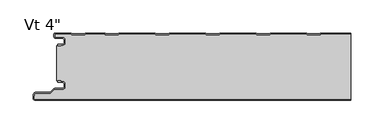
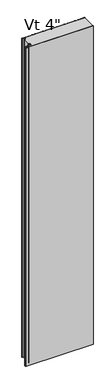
"""IFC4 building model written with IfcOpenShell, lengths in millimetres: plate geometry."""

from ifc_helpers import new_model, si_unit, point, frame, frame_2d, origin, origin_with_axes, place, context, project, spatial, polyline, circle_curve, trimmed, segment, composite_curve, outline, extrude, source, transform, mapped, element, save
from ifc_brep_helpers import plane_surface, cylinder_surface, revolved_surface, advanced_brep


def plate_912df086(model_context):
    return source(origin(), model_context, "Body", "SolidModel", [
        advanced_brep(
        [(-219.9686911, -17.0015243, 2400.0), (-220.9686883, -18.0015275, 2400.0), (-219.9686911, -19.0015188, 2400.0), (-215.9684874, -19.0015188, 2400.0), (-215.9684874, -18.0015243, 2400.0), (-213.2762776, -18.0015243, 2400.0), (-209.9762819, -14.7015286, 2400.0), (-209.9762819, -10.3015374, 2400.0), (-213.2762774, -7.0015419, 2400.0), (-223.6962563, -7.0015419, 2400.0), (-225.4662505, -5.2315477, 2400.0), (-225.4662505, -1.0, 2400.0), (-200.9659739, -1.0, 2400.0), (-199.5803313, -2.2002391, 2400.0), (-180.205165, -2.2002391, 2400.0), (-178.819532, -1.0000084, 2400.0), (-150.1661166, -1.0000084, 2400.0), (-148.7804837, -2.2002391, 2400.0), (-129.4053174, -2.2002391, 2400.0), (-128.0196844, -1.0000084, 2400.0), (-73.966269, -1.0000084, 2400.0), (-72.5806361, -2.2002391, 2400.0), (-53.2054698, -2.2002391, 2400.0), (-51.8198368, -1.0000084, 2400.0), (2.2335786, -1.0000084, 2400.0), (3.6192115, -2.2002391, 2400.0), (22.9943778, -2.2002391, 2400.0), (24.3800108, -1.0000084, 2400.0), (78.4334262, -1.0000084, 2400.0), (79.8190591, -2.2002391, 2400.0), (99.1942254, -2.2002391, 2400.0), (100.5798584, -1.0000084, 2400.0), (154.6332738, -1.0000084, 2400.0), (156.0189067, -2.2002391, 2400.0), (175.394073, -2.2002391, 2400.0), (176.779706, -1.0000084, 2400.0), (221.9999998, -1.0000084, 2400.0), (221.9999998, -8.4e-06, 2400.0), (176.9288571, -8.4e-06, 2400.0), (176.0122402, -0.3417969, 2400.0), (175.0211926, -1.2002391, 2400.0), (156.3917872, -1.2002391, 2400.0), (155.4007395, -0.3417969, 2400.0), (154.4841226, -8.4e-06, 2400.0), (100.7290095, -8.4e-06, 2400.0), (99.8123926, -0.3417969, 2400.0), (98.821345, -1.2002391, 2400.0), (80.1919396, -1.2002391, 2400.0), (79.2008919, -0.3417969, 2400.0), (78.284275, -8.4e-06, 2400.0), (24.5291619, -8.4e-06, 2400.0), (23.612545, -0.3417969, 2400.0), (22.6214974, -1.2002391, 2400.0), (3.992092, -1.2002391, 2400.0), (3.0010443, -0.3417969, 2400.0), (2.0844274, -8.4e-06, 2400.0), (-51.6706857, -8.4e-06, 2400.0), (-52.5873026, -0.3417969, 2400.0), (-53.5783502, -1.2002391, 2400.0), (-72.2077556, -1.2002391, 2400.0), (-73.1988033, -0.3417969, 2400.0), (-74.1154202, -8.4e-06, 2400.0), (-127.8705333, -8.4e-06, 2400.0), (-128.7871502, -0.3417969, 2400.0), (-129.7781978, -1.2002391, 2400.0), (-148.4076032, -1.2002391, 2400.0), (-149.3986509, -0.3417969, 2400.0), (-150.3152678, -8.4e-06, 2400.0), (-178.6703809, -8.4e-06, 2400.0), (-179.5869978, -0.3417969, 2400.0), (-180.5780454, -1.2002391, 2400.0), (-199.2074508, -1.2002391, 2400.0), (-200.1984985, -0.3417969, 2400.0), (-201.1152068, -8.4e-06, 2400.0), (-225.0662544, 0.0, 2400.0), (-226.4662505, -1.3999962, 2400.0), (-226.4662505, -5.2315477, 2400.0), (-223.6962563, -8.0015419, 2400.0), (-213.2762774, -8.0015419, 2400.0), (-210.9762819, -10.3015374, 2400.0), (-210.9762819, -14.7015286, 2400.0), (-213.2762776, -17.0015243, 2400.0), (-219.9686911, -17.0015243, 0.0), (-213.2762776, -17.0015243, 0.0), (-210.9762819, -14.7015286, 0.0), (-210.9762819, -10.3015374, 0.0), (-213.2762774, -8.0015419, 0.0), (-223.6962563, -8.0015419, 0.0), (-226.4662505, -5.2315477, 0.0), (-226.4662505, -1.3999962, 0.0), (-225.0662544, 0.0, 0.0), (-201.1151154, 0.0, 0.0), (-200.1984985, -0.3417969, 0.0), (-199.2074508, -1.2002391, 0.0), (-180.5780454, -1.2002391, 0.0), (-179.5869978, -0.3417969, 0.0), (-178.6703809, -8.4e-06, 0.0), (-150.3152678, -8.4e-06, 0.0), (-149.3986509, -0.3417969, 0.0), (-148.4076032, -1.2002391, 0.0), (-129.7781978, -1.2002391, 0.0), (-128.7871502, -0.3417969, 0.0), (-127.8705333, -8.4e-06, 0.0), (-74.1154202, -8.4e-06, 0.0), (-73.1988033, -0.3417969, 0.0), (-72.2077556, -1.2002391, 0.0), (-53.5783502, -1.2002391, 0.0), (-52.5873026, -0.3417969, 0.0), (-51.6706857, -8.4e-06, 0.0), (2.0844274, -8.4e-06, 0.0), (3.0010443, -0.3417969, 0.0), (3.992092, -1.2002391, 0.0), (22.6214974, -1.2002391, 0.0), (23.612545, -0.3417969, 0.0), (24.5291619, -8.4e-06, 0.0), (78.284275, -8.4e-06, 0.0), (79.2008919, -0.3417969, 0.0), (80.1919396, -1.2002391, 0.0), (98.821345, -1.2002391, 0.0), (99.8123926, -0.3417969, 0.0), (100.7290095, -8.4e-06, 0.0), (154.4841226, -8.4e-06, 0.0), (155.4007395, -0.3417969, 0.0), (156.3917872, -1.2002391, 0.0), (175.0211926, -1.2002391, 0.0), (176.0122402, -0.3417969, 0.0), (176.9288571, -8.4e-06, 0.0), (221.9999998, -8.4e-06, 0.0), (221.9999998, -1.0000084, 0.0), (176.779706, -1.0000084, 0.0), (175.394073, -2.2002391, 0.0), (156.0189067, -2.2002391, 0.0), (154.6332738, -1.0000084, 0.0), (100.5798584, -1.0000084, 0.0), (99.1942254, -2.2002391, 0.0), (79.8190591, -2.2002391, 0.0), (78.4334262, -1.0000084, 0.0), (24.3800108, -1.0000084, 0.0), (22.9943778, -2.2002391, 0.0), (3.6192115, -2.2002391, 0.0), (2.2335786, -1.0000084, 0.0), (-51.8198368, -1.0000084, 0.0), (-53.2054698, -2.2002391, 0.0), (-72.5806361, -2.2002391, 0.0), (-73.966269, -1.0000084, 0.0), (-128.0196844, -1.0000084, 0.0), (-129.4053174, -2.2002391, 0.0), (-148.7804837, -2.2002391, 0.0), (-150.1661166, -1.0000084, 0.0), (-178.819532, -1.0000084, 0.0), (-180.205165, -2.2002391, 0.0), (-199.5803313, -2.2002391, 0.0), (-200.9659739, -1.0, 0.0), (-225.4662505, -1.0, 0.0), (-225.4662505, -5.2315477, 0.0), (-223.6962563, -7.0015419, 0.0), (-213.2762774, -7.0015419, 0.0), (-209.9762819, -10.3015374, 0.0), (-209.9762819, -14.7015286, 0.0), (-213.2762776, -18.0015243, 0.0), (-215.9684874, -18.0015243, 0.0), (-215.9684874, -19.0015188, 0.0), (-219.9686911, -19.0015188, 0.0), (-220.9686883, -18.0015275, 0.0)],
        [
            (0, 1, circle_curve(frame((-219.9686911, -18.0015215, 2400.0), z_axis=(0.0, 0.0, 1.0), x_axis=(1.0, 0.0, 0.0)), 0.9999973)),
            (1, 2, circle_curve(frame((-219.9686911, -18.0015216, 2400.0), z_axis=(0.0, 0.0, 1.0), x_axis=(1.0, 0.0, 0.0)), 0.9999972)),
            (2, 3),
            (3, 4),
            (4, 5),
            (5, 6, circle_curve(frame((-213.2762776, -14.7015286, 2400.0), z_axis=(0.0, 0.0, 1.0), x_axis=(1.0, 0.0, 0.0)), 3.2999957)),
            (6, 7),
            (7, 8, circle_curve(frame((-213.2762774, -10.3015374, 2400.0), z_axis=(0.0, 0.0, 1.0), x_axis=(1.0, 0.0, 0.0)), 3.2999955)),
            (8, 9),
            (9, 10, circle_curve(frame((-223.6962563, -5.2315477, 2400.0), z_axis=(0.0, 0.0, -1.0), x_axis=(1.0, 0.0, 0.0)), 1.7699942)),
            (10, 11),
            (11, 12),
            (12, 13),
            (13, 14),
            (14, 15),
            (15, 16),
            (16, 17),
            (17, 18),
            (18, 19),
            (19, 20),
            (20, 21),
            (21, 22),
            (22, 23),
            (23, 24),
            (24, 25),
            (25, 26),
            (26, 27),
            (27, 28),
            (28, 29),
            (29, 30),
            (30, 31),
            (31, 32),
            (32, 33),
            (33, 34),
            (34, 35),
            (35, 36),
            (36, 37),
            (37, 38),
            (38, 39, circle_curve(frame((176.9288571, -1.4000056, 2400.0), z_axis=(0.0, 0.0, 1.0), x_axis=(1.0, 0.0, 0.0)), 1.3999972)),
            (39, 40),
            (40, 41),
            (41, 42),
            (42, 43, circle_curve(frame((154.4841226, -1.4000056, 2400.0), z_axis=(0.0, 0.0, 1.0), x_axis=(1.0, 0.0, 0.0)), 1.3999972)),
            (43, 44),
            (44, 45, circle_curve(frame((100.7290095, -1.4000056, 2400.0), z_axis=(0.0, 0.0, 1.0), x_axis=(1.0, 0.0, 0.0)), 1.3999972)),
            (45, 46),
            (46, 47),
            (47, 48),
            (48, 49, circle_curve(frame((78.284275, -1.4000056, 2400.0), z_axis=(0.0, 0.0, 1.0), x_axis=(1.0, 0.0, 0.0)), 1.3999972)),
            (49, 50),
            (50, 51, circle_curve(frame((24.5291619, -1.4000056, 2400.0), z_axis=(0.0, 0.0, 1.0), x_axis=(1.0, 0.0, 0.0)), 1.3999972)),
            (51, 52),
            (52, 53),
            (53, 54),
            (54, 55, circle_curve(frame((2.0844274, -1.4000056, 2400.0), z_axis=(0.0, 0.0, 1.0), x_axis=(1.0, 0.0, 0.0)), 1.3999972)),
            (55, 56),
            (56, 57, circle_curve(frame((-51.6706857, -1.4000056, 2400.0), z_axis=(0.0, 0.0, 1.0), x_axis=(1.0, 0.0, 0.0)), 1.3999972)),
            (57, 58),
            (58, 59),
            (59, 60),
            (60, 61, circle_curve(frame((-74.1154202, -1.4000056, 2400.0), z_axis=(0.0, 0.0, 1.0), x_axis=(1.0, 0.0, 0.0)), 1.3999972)),
            (61, 62),
            (62, 63, circle_curve(frame((-127.8705333, -1.4000056, 2400.0), z_axis=(0.0, 0.0, 1.0), x_axis=(1.0, 0.0, 0.0)), 1.3999972)),
            (63, 64),
            (64, 65),
            (65, 66),
            (66, 67, circle_curve(frame((-150.3152678, -1.4000056, 2400.0), z_axis=(0.0, 0.0, 1.0), x_axis=(1.0, 0.0, 0.0)), 1.3999972)),
            (67, 68),
            (68, 69, circle_curve(frame((-178.6703809, -1.4000056, 2400.0), z_axis=(0.0, 0.0, 1.0), x_axis=(1.0, 0.0, 0.0)), 1.3999972)),
            (69, 70),
            (70, 71),
            (71, 72),
            (72, 73, circle_curve(frame((-201.1151154, -1.4000056, 2400.0), z_axis=(0.0, 0.0, 1.0), x_axis=(1.0, 0.0, 0.0)), 1.3999972)),
            (73, 74),
            (74, 75, circle_curve(frame((-225.0662544, -1.3999962, 2400.0), z_axis=(0.0, 0.0, 1.0), x_axis=(1.0, 0.0, 0.0)), 1.3999962)),
            (75, 76),
            (76, 77, circle_curve(frame((-223.6962563, -5.2315477, 2400.0), z_axis=(0.0, 0.0, 1.0), x_axis=(1.0, 0.0, 0.0)), 2.7699942)),
            (77, 78),
            (78, 79, circle_curve(frame((-213.2762774, -10.3015374, 2400.0), z_axis=(0.0, 0.0, -1.0), x_axis=(1.0, 0.0, 0.0)), 2.2999955)),
            (79, 80),
            (80, 81, circle_curve(frame((-213.2762776, -14.7015286, 2400.0), z_axis=(0.0, 0.0, -1.0), x_axis=(1.0, 0.0, 0.0)), 2.2999957)),
            (81, 0),
            (82, 83),
            (83, 84, circle_curve(frame((-213.2762776, -14.7015286, 0.0), z_axis=(0.0, 0.0, 1.0), x_axis=(1.0, 0.0, 0.0)), 2.2999957)),
            (84, 85),
            (85, 86, circle_curve(frame((-213.2762774, -10.3015374, 0.0), z_axis=(0.0, 0.0, 1.0), x_axis=(1.0, 0.0, 0.0)), 2.2999955)),
            (86, 87),
            (87, 88, circle_curve(frame((-223.6962563, -5.2315477, 0.0), z_axis=(0.0, 0.0, -1.0), x_axis=(1.0, 0.0, 0.0)), 2.7699942)),
            (88, 89),
            (89, 90, circle_curve(frame((-225.0662544, -1.3999962, 0.0), z_axis=(0.0, 0.0, -1.0), x_axis=(1.0, 0.0, 0.0)), 1.3999962)),
            (90, 91),
            (91, 92, circle_curve(frame((-201.1151154, -1.4000056, 0.0), z_axis=(0.0, 0.0, -1.0), x_axis=(1.0, 0.0, 0.0)), 1.3999972)),
            (92, 93),
            (93, 94),
            (94, 95),
            (95, 96, circle_curve(frame((-178.6703809, -1.4000056, 0.0), z_axis=(0.0, 0.0, -1.0), x_axis=(1.0, 0.0, 0.0)), 1.3999972)),
            (96, 97),
            (97, 98, circle_curve(frame((-150.3152678, -1.4000056, 0.0), z_axis=(0.0, 0.0, -1.0), x_axis=(1.0, 0.0, 0.0)), 1.3999972)),
            (98, 99),
            (99, 100),
            (100, 101),
            (101, 102, circle_curve(frame((-127.8705333, -1.4000056, 0.0), z_axis=(0.0, 0.0, -1.0), x_axis=(1.0, 0.0, 0.0)), 1.3999972)),
            (102, 103),
            (103, 104, circle_curve(frame((-74.1154202, -1.4000056, 0.0), z_axis=(0.0, 0.0, -1.0), x_axis=(1.0, 0.0, 0.0)), 1.3999972)),
            (104, 105),
            (105, 106),
            (106, 107),
            (107, 108, circle_curve(frame((-51.6706857, -1.4000056, 0.0), z_axis=(0.0, 0.0, -1.0), x_axis=(1.0, 0.0, 0.0)), 1.3999972)),
            (108, 109),
            (109, 110, circle_curve(frame((2.0844274, -1.4000056, 0.0), z_axis=(0.0, 0.0, -1.0), x_axis=(1.0, 0.0, 0.0)), 1.3999972)),
            (110, 111),
            (111, 112),
            (112, 113),
            (113, 114, circle_curve(frame((24.5291619, -1.4000056, 0.0), z_axis=(0.0, 0.0, -1.0), x_axis=(1.0, 0.0, 0.0)), 1.3999972)),
            (114, 115),
            (115, 116, circle_curve(frame((78.284275, -1.4000056, 0.0), z_axis=(0.0, 0.0, -1.0), x_axis=(1.0, 0.0, 0.0)), 1.3999972)),
            (116, 117),
            (117, 118),
            (118, 119),
            (119, 120, circle_curve(frame((100.7290095, -1.4000056, 0.0), z_axis=(0.0, 0.0, -1.0), x_axis=(1.0, 0.0, 0.0)), 1.3999972)),
            (120, 121),
            (121, 122, circle_curve(frame((154.4841226, -1.4000056, 0.0), z_axis=(0.0, 0.0, -1.0), x_axis=(1.0, 0.0, 0.0)), 1.3999972)),
            (122, 123),
            (123, 124),
            (124, 125),
            (125, 126, circle_curve(frame((176.9288571, -1.4000056, 0.0), z_axis=(0.0, 0.0, -1.0), x_axis=(1.0, 0.0, 0.0)), 1.3999972)),
            (126, 127),
            (127, 128),
            (128, 129),
            (129, 130),
            (130, 131),
            (131, 132),
            (132, 133),
            (133, 134),
            (134, 135),
            (135, 136),
            (136, 137),
            (137, 138),
            (138, 139),
            (139, 140),
            (140, 141),
            (141, 142),
            (142, 143),
            (143, 144),
            (144, 145),
            (145, 146),
            (146, 147),
            (147, 148),
            (148, 149),
            (149, 150),
            (150, 151),
            (151, 152),
            (152, 153),
            (153, 154),
            (154, 155, circle_curve(frame((-223.6962563, -5.2315477, 0.0), z_axis=(0.0, 0.0, 1.0), x_axis=(1.0, 0.0, 0.0)), 1.7699942)),
            (155, 156),
            (156, 157, circle_curve(frame((-213.2762774, -10.3015374, 0.0), z_axis=(0.0, 0.0, -1.0), x_axis=(1.0, 0.0, 0.0)), 3.2999955)),
            (157, 158),
            (158, 159, circle_curve(frame((-213.2762776, -14.7015286, 0.0), z_axis=(0.0, 0.0, -1.0), x_axis=(1.0, 0.0, 0.0)), 3.2999957)),
            (159, 160),
            (160, 161),
            (161, 162),
            (162, 163, circle_curve(frame((-219.9686911, -18.0015216, 0.0), z_axis=(0.0, 0.0, -1.0), x_axis=(1.0, 0.0, 0.0)), 0.9999972)),
            (163, 82, circle_curve(frame((-219.9686911, -18.0015215, 0.0), z_axis=(0.0, 0.0, -1.0), x_axis=(1.0, 0.0, 0.0)), 0.9999973)),
            (36, 128),
            (127, 37),
            (81, 83),
            (82, 0),
            (80, 84),
            (79, 85),
            (78, 86),
            (77, 87),
            (76, 88),
            (75, 89),
            (74, 90),
            (73, 91),
            (72, 92),
            (71, 93),
            (70, 94),
            (69, 95),
            (68, 96),
            (67, 97),
            (66, 98),
            (65, 99),
            (64, 100),
            (63, 101),
            (62, 102),
            (61, 103),
            (60, 104),
            (59, 105),
            (58, 106),
            (57, 107),
            (56, 108),
            (55, 109),
            (54, 110),
            (53, 111),
            (52, 112),
            (51, 113),
            (50, 114),
            (49, 115),
            (48, 116),
            (47, 117),
            (46, 118),
            (45, 119),
            (44, 120),
            (43, 121),
            (42, 122),
            (41, 123),
            (40, 124),
            (39, 125),
            (38, 126),
            (35, 129),
            (34, 130),
            (33, 131),
            (32, 132),
            (31, 133),
            (30, 134),
            (29, 135),
            (28, 136),
            (27, 137),
            (26, 138),
            (25, 139),
            (24, 140),
            (23, 141),
            (22, 142),
            (21, 143),
            (20, 144),
            (19, 145),
            (18, 146),
            (17, 147),
            (16, 148),
            (15, 149),
            (14, 150),
            (13, 151),
            (12, 152),
            (11, 153),
            (10, 154),
            (9, 155),
            (8, 156),
            (7, 157),
            (6, 158),
            (5, 159),
            (4, 160),
            (3, 161),
            (2, 162),
            (1, 163),
        ],
        [
            plane_surface(frame((286.0000002, -8.4e-06, 2400.0), z_axis=(0.0, 0.0, 1.0), x_axis=(0.0, 1.0, 0.0))),
            plane_surface(frame((286.0000002, -8.4e-06, 0.0), z_axis=(0.0, 0.0, -1.0), x_axis=(0.0, 1.0, 0.0))),
            plane_surface(frame((221.9999998, -111.6000084, 2400.0), z_axis=(1.0, 0.0, 0.0), x_axis=(0.0, 0.0, -1.0))),
            plane_surface(frame((-219.9686911, -17.0015243, 2400.0), z_axis=(0.0, 1.0, 0.0), x_axis=(0.0, 0.0, -1.0))),
            revolved_surface(polyline([(-210.97628189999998, -14.7015286, 0.0), (-210.97628189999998, -14.7015286, 2400.0)]), (-213.2762776, -14.7015286, 2400.0), (0.0, 0.0, -1.0)),
            plane_surface(frame((-210.9762819, -14.7015286, 2400.0), z_axis=(-1.0, 0.0, 0.0), x_axis=(0.0, 0.0, -1.0))),
            revolved_surface(polyline([(-210.9762819, -10.3015374, 0.0), (-210.9762819, -10.3015374, 2400.0)]), (-213.2762774, -10.3015374, 2400.0), (0.0, 0.0, -1.0)),
            plane_surface(frame((-213.2762774, -8.0015419, 2400.0), z_axis=(0.0, -1.0, 0.0), x_axis=(0.0, 0.0, -1.0))),
            cylinder_surface(frame((-223.6962563, -5.2315477, 2400.0), z_axis=(0.0, 0.0, 1.0), x_axis=(1.0, 0.0, 0.0)), 2.7699942),
            plane_surface(frame((-226.4662505, -5.2315477, 2400.0), z_axis=(-1.0, 0.0, 0.0), x_axis=(0.0, 0.0, -1.0))),
            cylinder_surface(frame((-225.0662544, -1.3999962, 2400.0), z_axis=(0.0, 0.0, 1.0), x_axis=(1.0, 0.0, 0.0)), 1.3999962),
            plane_surface(frame((-225.0662544, 0.0, 2400.0), z_axis=(0.0, 1.0, 0.0), x_axis=(0.0, 0.0, -1.0))),
            cylinder_surface(frame((-201.1151154, -1.4000056, 2400.0), z_axis=(0.0, 0.0, 1.0), x_axis=(1.0, 0.0, 0.0)), 1.3999972),
            plane_surface(frame((-200.1984985, -0.3417969, 2400.0), z_axis=(0.6547276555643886, 0.755864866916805, 0.0), x_axis=(0.0, 0.0, -1.0))),
            plane_surface(frame((-189.8927481, -1.2002391, 2400.0), z_axis=(0.0, 1.0, 0.0), x_axis=(0.0, 0.0, -1.0))),
            plane_surface(frame((-180.5780454, -1.2002391, 2400.0), z_axis=(-0.6547276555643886, 0.755864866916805, 0.0), x_axis=(0.0, 0.0, -1.0))),
            cylinder_surface(frame((-178.6703809, -1.4000056, 2400.0), z_axis=(0.0, 0.0, 1.0), x_axis=(1.0, 0.0, 0.0)), 1.3999972),
            plane_surface(frame((-178.6703809, -8.4e-06, 2400.0), z_axis=(0.0, 1.0, 0.0), x_axis=(0.0, 0.0, -1.0))),
            cylinder_surface(frame((-150.3152678, -1.4000056, 2400.0), z_axis=(0.0, 0.0, 1.0), x_axis=(1.0, 0.0, 0.0)), 1.3999972),
            plane_surface(frame((-149.3986509, -0.3417969, 2400.0), z_axis=(0.6547276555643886, 0.755864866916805, 0.0), x_axis=(0.0, 0.0, -1.0))),
            plane_surface(frame((-139.0929005, -1.2002391, 2400.0), z_axis=(0.0, 1.0, 0.0), x_axis=(0.0, 0.0, -1.0))),
            plane_surface(frame((-129.7781978, -1.2002391, 2400.0), z_axis=(-0.6547276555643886, 0.755864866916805, 0.0), x_axis=(0.0, 0.0, -1.0))),
            cylinder_surface(frame((-127.8705333, -1.4000056, 2400.0), z_axis=(0.0, 0.0, 1.0), x_axis=(1.0, 0.0, 0.0)), 1.3999972),
            plane_surface(frame((-127.8705333, -8.4e-06, 2400.0), z_axis=(0.0, 1.0, 0.0), x_axis=(0.0, 0.0, -1.0))),
            cylinder_surface(frame((-74.1154202, -1.4000056, 2400.0), z_axis=(0.0, 0.0, 1.0), x_axis=(1.0, 0.0, 0.0)), 1.3999972),
            plane_surface(frame((-73.1988033, -0.3417969, 2400.0), z_axis=(0.6547276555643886, 0.755864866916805, 0.0), x_axis=(0.0, 0.0, -1.0))),
            plane_surface(frame((-62.8930529, -1.2002391, 2400.0), z_axis=(0.0, 1.0, 0.0), x_axis=(0.0, 0.0, -1.0))),
            plane_surface(frame((-53.5783502, -1.2002391, 2400.0), z_axis=(-0.6547276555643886, 0.755864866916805, 0.0), x_axis=(0.0, 0.0, -1.0))),
            cylinder_surface(frame((-51.6706857, -1.4000056, 2400.0), z_axis=(0.0, 0.0, 1.0), x_axis=(1.0, 0.0, 0.0)), 1.3999972),
            plane_surface(frame((-51.6706857, -8.4e-06, 2400.0), z_axis=(0.0, 1.0, 0.0), x_axis=(0.0, 0.0, -1.0))),
            cylinder_surface(frame((2.0844274, -1.4000056, 2400.0), z_axis=(0.0, 0.0, 1.0), x_axis=(1.0, 0.0, 0.0)), 1.3999972),
            plane_surface(frame((3.0010443, -0.3417969, 2400.0), z_axis=(0.6547276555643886, 0.755864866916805, 0.0), x_axis=(0.0, 0.0, -1.0))),
            plane_surface(frame((13.3067947, -1.2002391, 2400.0), z_axis=(0.0, 1.0, 0.0), x_axis=(0.0, 0.0, -1.0))),
            plane_surface(frame((22.6214974, -1.2002391, 2400.0), z_axis=(-0.6547276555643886, 0.755864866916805, 0.0), x_axis=(0.0, 0.0, -1.0))),
            cylinder_surface(frame((24.5291619, -1.4000056, 2400.0), z_axis=(0.0, 0.0, 1.0), x_axis=(1.0, 0.0, 0.0)), 1.3999972),
            plane_surface(frame((24.5291619, -8.4e-06, 2400.0), z_axis=(0.0, 1.0, 0.0), x_axis=(0.0, 0.0, -1.0))),
            cylinder_surface(frame((78.284275, -1.4000056, 2400.0), z_axis=(0.0, 0.0, 1.0), x_axis=(1.0, 0.0, 0.0)), 1.3999972),
            plane_surface(frame((79.2008919, -0.3417969, 2400.0), z_axis=(0.6547276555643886, 0.755864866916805, 0.0), x_axis=(0.0, 0.0, -1.0))),
            plane_surface(frame((89.5066423, -1.2002391, 2400.0), z_axis=(0.0, 1.0, 0.0), x_axis=(0.0, 0.0, -1.0))),
            plane_surface(frame((98.821345, -1.2002391, 2400.0), z_axis=(-0.6547276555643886, 0.755864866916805, 0.0), x_axis=(0.0, 0.0, -1.0))),
            cylinder_surface(frame((100.7290095, -1.4000056, 2400.0), z_axis=(0.0, 0.0, 1.0), x_axis=(1.0, 0.0, 0.0)), 1.3999972),
            plane_surface(frame((100.7290095, -8.4e-06, 2400.0), z_axis=(0.0, 1.0, 0.0), x_axis=(0.0, 0.0, -1.0))),
            cylinder_surface(frame((154.4841226, -1.4000056, 2400.0), z_axis=(0.0, 0.0, 1.0), x_axis=(1.0, 0.0, 0.0)), 1.3999972),
            plane_surface(frame((155.4007395, -0.3417969, 2400.0), z_axis=(0.6547276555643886, 0.755864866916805, 0.0), x_axis=(0.0, 0.0, -1.0))),
            plane_surface(frame((165.7064899, -1.2002391, 2400.0), z_axis=(0.0, 1.0, 0.0), x_axis=(0.0, 0.0, -1.0))),
            plane_surface(frame((175.0211926, -1.2002391, 2400.0), z_axis=(-0.6547276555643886, 0.755864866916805, 0.0), x_axis=(0.0, 0.0, -1.0))),
            cylinder_surface(frame((176.9288571, -1.4000056, 2400.0), z_axis=(0.0, 0.0, 1.0), x_axis=(1.0, 0.0, 0.0)), 1.3999972),
            plane_surface(frame((176.9288571, -8.4e-06, 2400.0), z_axis=(0.0, 1.0, 0.0), x_axis=(0.0, 0.0, -1.0))),
            plane_surface(frame((230.8331214, -1.0000084, 2400.0), z_axis=(0.0, -1.0, 0.0), x_axis=(0.0, 0.0, -1.0))),
            plane_surface(frame((176.779706, -1.0000084, 2400.0), z_axis=(0.6547276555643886, -0.755864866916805, 0.0), x_axis=(0.0, 0.0, -1.0))),
            plane_surface(frame((175.394073, -2.2002391, 2400.0), z_axis=(0.0, -1.0, 0.0), x_axis=(0.0, 0.0, -1.0))),
            plane_surface(frame((156.0189067, -2.2002391, 2400.0), z_axis=(-0.6547276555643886, -0.755864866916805, 0.0), x_axis=(0.0, 0.0, -1.0))),
            plane_surface(frame((154.6332738, -1.0000084, 2400.0), z_axis=(0.0, -1.0, 0.0), x_axis=(0.0, 0.0, -1.0))),
            plane_surface(frame((100.5798584, -1.0000084, 2400.0), z_axis=(0.6547276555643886, -0.755864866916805, 0.0), x_axis=(0.0, 0.0, -1.0))),
            plane_surface(frame((99.1942254, -2.2002391, 2400.0), z_axis=(0.0, -1.0, 0.0), x_axis=(0.0, 0.0, -1.0))),
            plane_surface(frame((79.8190591, -2.2002391, 2400.0), z_axis=(-0.6547276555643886, -0.755864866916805, 0.0), x_axis=(0.0, 0.0, -1.0))),
            plane_surface(frame((78.4334262, -1.0000084, 2400.0), z_axis=(0.0, -1.0, 0.0), x_axis=(0.0, 0.0, -1.0))),
            plane_surface(frame((24.3800108, -1.0000084, 2400.0), z_axis=(0.6547276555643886, -0.755864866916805, 0.0), x_axis=(0.0, 0.0, -1.0))),
            plane_surface(frame((22.9943778, -2.2002391, 2400.0), z_axis=(0.0, -1.0, 0.0), x_axis=(0.0, 0.0, -1.0))),
            plane_surface(frame((3.6192115, -2.2002391, 2400.0), z_axis=(-0.6547276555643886, -0.755864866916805, 0.0), x_axis=(0.0, 0.0, -1.0))),
            plane_surface(frame((2.2335786, -1.0000084, 2400.0), z_axis=(0.0, -1.0, 0.0), x_axis=(0.0, 0.0, -1.0))),
            plane_surface(frame((-51.8198368, -1.0000084, 2400.0), z_axis=(0.6547276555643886, -0.755864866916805, 0.0), x_axis=(0.0, 0.0, -1.0))),
            plane_surface(frame((-53.2054698, -2.2002391, 2400.0), z_axis=(0.0, -1.0, 0.0), x_axis=(0.0, 0.0, -1.0))),
            plane_surface(frame((-72.5806361, -2.2002391, 2400.0), z_axis=(-0.6547276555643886, -0.755864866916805, 0.0), x_axis=(0.0, 0.0, -1.0))),
            plane_surface(frame((-73.966269, -1.0000084, 2400.0), z_axis=(0.0, -1.0, 0.0), x_axis=(0.0, 0.0, -1.0))),
            plane_surface(frame((-128.0196844, -1.0000084, 2400.0), z_axis=(0.6547276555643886, -0.755864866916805, 0.0), x_axis=(0.0, 0.0, -1.0))),
            plane_surface(frame((-129.4053174, -2.2002391, 2400.0), z_axis=(0.0, -1.0, 0.0), x_axis=(0.0, 0.0, -1.0))),
            plane_surface(frame((-148.7804837, -2.2002391, 2400.0), z_axis=(-0.6547276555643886, -0.755864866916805, 0.0), x_axis=(0.0, 0.0, -1.0))),
            plane_surface(frame((-150.1661166, -1.0000084, 2400.0), z_axis=(0.0, -1.0, 0.0), x_axis=(0.0, 0.0, -1.0))),
            plane_surface(frame((-178.819532, -1.0000084, 2400.0), z_axis=(0.6547276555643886, -0.755864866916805, 0.0), x_axis=(0.0, 0.0, -1.0))),
            plane_surface(frame((-180.205165, -2.2002391, 2400.0), z_axis=(0.0, -1.0, 0.0), x_axis=(0.0, 0.0, -1.0))),
            plane_surface(frame((-199.5803313, -2.2002391, 2400.0), z_axis=(-0.6547276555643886, -0.755864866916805, 0.0), x_axis=(0.0, 0.0, -1.0))),
            plane_surface(frame((-200.9659739, -1.0, 2400.0), z_axis=(0.0, -1.0, 0.0), x_axis=(0.0, 0.0, -1.0))),
            plane_surface(frame((-225.4662505, -1.0, 2400.0), z_axis=(1.0, 0.0, 0.0), x_axis=(0.0, 0.0, -1.0))),
            revolved_surface(polyline([(-221.92626209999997, -5.2315477, 0.0), (-221.92626209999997, -5.2315477, 2400.0)]), (-223.6962563, -5.2315477, 2400.0), (0.0, 0.0, -1.0)),
            plane_surface(frame((-223.6962563, -7.0015419, 2400.0), z_axis=(0.0, 1.0, 0.0), x_axis=(0.0, 0.0, -1.0))),
            cylinder_surface(frame((-213.2762774, -10.3015374, 2400.0), z_axis=(0.0, 0.0, 1.0), x_axis=(1.0, 0.0, 0.0)), 3.2999955),
            plane_surface(frame((-209.9762819, -10.3015374, 2400.0), z_axis=(1.0, 0.0, 0.0), x_axis=(0.0, 0.0, -1.0))),
            cylinder_surface(frame((-213.2762776, -14.7015286, 2400.0), z_axis=(0.0, 0.0, 1.0), x_axis=(1.0, 0.0, 0.0)), 3.2999957),
            plane_surface(frame((-213.2762776, -18.0015243, 2400.0), z_axis=(0.0, -1.0, 0.0), x_axis=(0.0, 0.0, -1.0))),
            plane_surface(frame((-215.9684874, -18.0015243, 2400.0), z_axis=(1.0, 0.0, 0.0), x_axis=(0.0, 0.0, -1.0))),
            plane_surface(frame((-215.9684874, -19.0015188, 2400.0), z_axis=(0.0, -1.0, 0.0), x_axis=(0.0, 0.0, -1.0))),
            cylinder_surface(frame((-219.9686911, -18.0015216, 2400.0), z_axis=(0.0, 0.0, 1.0), x_axis=(1.0, 0.0, 0.0)), 0.9999972),
            cylinder_surface(frame((-219.9686911, -18.0015215, 2400.0), z_axis=(0.0, 0.0, 1.0), x_axis=(1.0, 0.0, 0.0)), 0.9999973),
        ],
        [
            (0, [[1, 2, 3, 4, 5, 6, 7, 8, 9, 10, 11, 12, 13, 14, 15, 16, 17, 18, 19, 20, 21, 22, 23, 24, 25, 26, 27, 28, 29, 30, 31, 32, 33, 34, 35, 36, 37, 38, 39, 40, 41, 42, 43, 44, 45, 46, 47, 48, 49, 50, 51, 52, 53, 54, 55, 56, 57, 58, 59, 60, 61, 62, 63, 64, 65, 66, 67, 68, 69, 70, 71, 72, 73, 74, 75, 76, 77, 78, 79, 80, 81, 82]]),
            (1, [[83, 84, 85, 86, 87, 88, 89, 90, 91, 92, 93, 94, 95, 96, 97, 98, 99, 100, 101, 102, 103, 104, 105, 106, 107, 108, 109, 110, 111, 112, 113, 114, 115, 116, 117, 118, 119, 120, 121, 122, 123, 124, 125, 126, 127, 128, 129, 130, 131, 132, 133, 134, 135, 136, 137, 138, 139, 140, 141, 142, 143, 144, 145, 146, 147, 148, 149, 150, 151, 152, 153, 154, 155, 156, 157, 158, 159, 160, 161, 162, 163, 164]]),
            (2, [[165, -128, 166, -37]]),
            (3, [[167, -83, 168, -82]]),
            (4, [[169, -84, -167, -81]]),
            (5, [[170, -85, -169, -80]]),
            (6, [[171, -86, -170, -79]]),
            (7, [[172, -87, -171, -78]]),
            (8, [[173, -88, -172, -77]]),
            (9, [[174, -89, -173, -76]]),
            (10, [[175, -90, -174, -75]]),
            (11, [[176, -91, -175, -74]]),
            (12, [[177, -92, -176, -73]]),
            (13, [[178, -93, -177, -72]]),
            (14, [[179, -94, -178, -71]]),
            (15, [[180, -95, -179, -70]]),
            (16, [[181, -96, -180, -69]]),
            (17, [[182, -97, -181, -68]]),
            (18, [[183, -98, -182, -67]]),
            (19, [[184, -99, -183, -66]]),
            (20, [[185, -100, -184, -65]]),
            (21, [[186, -101, -185, -64]]),
            (22, [[187, -102, -186, -63]]),
            (23, [[188, -103, -187, -62]]),
            (24, [[189, -104, -188, -61]]),
            (25, [[190, -105, -189, -60]]),
            (26, [[191, -106, -190, -59]]),
            (27, [[192, -107, -191, -58]]),
            (28, [[193, -108, -192, -57]]),
            (29, [[194, -109, -193, -56]]),
            (30, [[195, -110, -194, -55]]),
            (31, [[196, -111, -195, -54]]),
            (32, [[197, -112, -196, -53]]),
            (33, [[198, -113, -197, -52]]),
            (34, [[199, -114, -198, -51]]),
            (35, [[200, -115, -199, -50]]),
            (36, [[201, -116, -200, -49]]),
            (37, [[202, -117, -201, -48]]),
            (38, [[203, -118, -202, -47]]),
            (39, [[204, -119, -203, -46]]),
            (40, [[205, -120, -204, -45]]),
            (41, [[206, -121, -205, -44]]),
            (42, [[207, -122, -206, -43]]),
            (43, [[208, -123, -207, -42]]),
            (44, [[209, -124, -208, -41]]),
            (45, [[210, -125, -209, -40]]),
            (46, [[211, -126, -210, -39]]),
            (47, [[-38, -166, -127, -211]]),
            (48, [[-129, -165, -36, 212]]),
            (49, [[213, -130, -212, -35]]),
            (50, [[214, -131, -213, -34]]),
            (51, [[215, -132, -214, -33]]),
            (52, [[216, -133, -215, -32]]),
            (53, [[217, -134, -216, -31]]),
            (54, [[218, -135, -217, -30]]),
            (55, [[219, -136, -218, -29]]),
            (56, [[220, -137, -219, -28]]),
            (57, [[221, -138, -220, -27]]),
            (58, [[222, -139, -221, -26]]),
            (59, [[223, -140, -222, -25]]),
            (60, [[224, -141, -223, -24]]),
            (61, [[225, -142, -224, -23]]),
            (62, [[226, -143, -225, -22]]),
            (63, [[227, -144, -226, -21]]),
            (64, [[228, -145, -227, -20]]),
            (65, [[229, -146, -228, -19]]),
            (66, [[230, -147, -229, -18]]),
            (67, [[231, -148, -230, -17]]),
            (68, [[232, -149, -231, -16]]),
            (69, [[233, -150, -232, -15]]),
            (70, [[234, -151, -233, -14]]),
            (71, [[235, -152, -234, -13]]),
            (72, [[236, -153, -235, -12]]),
            (73, [[237, -154, -236, -11]]),
            (74, [[238, -155, -237, -10]]),
            (75, [[239, -156, -238, -9]]),
            (76, [[240, -157, -239, -8]]),
            (77, [[241, -158, -240, -7]]),
            (78, [[242, -159, -241, -6]]),
            (79, [[243, -160, -242, -5]]),
            (80, [[244, -161, -243, -4]]),
            (81, [[245, -162, -244, -3]]),
            (82, [[246, -163, -245, -2]]),
            (83, [[-168, -164, -246, -1]]),
        ],
    ),
        extrude(outline(composite_curve([segment(polyline([(-258.0087619, -97.7184987), (-257.5690674, -92.6944521)]), True, "CONTINUOUS"), segment(trimmed(circle_curve(frame_2d((-253.9198391, -93.3052532)), 3.6999926), [point((-257.5690674, -92.6944521))], [point((-253.9198391, -89.6052606))], False, "CARTESIAN"), True, "CONTINUOUS"), segment(polyline([(-253.9198391, -89.6052606), (-232.7773995, -89.6052606)]), True, "CONTINUOUS"), segment(trimmed(circle_curve(frame_2d((-232.7773995, -88.3052632)), 1.2999974), [point((-232.7773995, -89.6052606))], [point((-231.8581626, -89.2245001))], True, "CARTESIAN"), True, "CONTINUOUS"), segment(polyline([(-231.8581626, -89.2245001), (-227.0297451, -84.3960827)]), True, "CONTINUOUS"), segment(trimmed(circle_curve(frame_2d((-225.1205606, -86.3052672)), 2.6999946), [point((-227.0297451, -84.3960827))], [point((-225.1205606, -83.6052726))], False, "CARTESIAN"), True, "CONTINUOUS"), segment(polyline([(-225.1205606, -83.6052726), (-213.3096715, -83.6052726)]), True, "CONTINUOUS"), segment(trimmed(circle_curve(frame_2d((-213.3096715, -81.2552773)), 2.3499953), [point((-213.3096715, -83.6052726))], [point((-210.9596762, -81.2552773))], True, "CARTESIAN"), True, "CONTINUOUS"), segment(polyline([(-210.9596762, -81.2552773), (-210.9596762, -76.8552861)]), True, "CONTINUOUS"), segment(trimmed(circle_curve(frame_2d((-213.3096715, -76.8552861)), 2.3499953), [point((-210.9596762, -76.8552861))], [point((-213.3096715, -74.5052908))], True, "CARTESIAN"), True, "CONTINUOUS"), segment(polyline([(-213.3096715, -74.5052908), (-219.8289777, -74.5052908)]), True, "CONTINUOUS"), segment(trimmed(circle_curve(frame_2d((-219.7686906, -73.3068085)), 1.1999976), [point((-219.8289777, -74.5052908))], [point((-220.9683, -73.2762866))], False, "CARTESIAN"), True, "CONTINUOUS"), segment(trimmed(circle_curve(frame_2d((-219.7686906, -73.3068085)), 1.1999976), [point((-220.9683, -73.2762866))], [point((-219.767176, -72.1068119))], False, "CARTESIAN"), True, "CONTINUOUS"), segment(polyline([(-219.767176, -72.1068119), (-216.0087826, -72.1068119), (-216.0087826, -73.5052908), (-213.3096715, -73.5052908)]), True, "CONTINUOUS"), segment(trimmed(circle_curve(frame_2d((-213.3096715, -76.8552861)), 3.3499953), [point((-213.3096715, -73.5052908))], [point((-209.9596762, -76.8552861))], False, "CARTESIAN"), True, "CONTINUOUS"), segment(polyline([(-209.9596762, -76.8552861), (-209.9596762, -81.2552773)]), True, "CONTINUOUS"), segment(trimmed(circle_curve(frame_2d((-213.3096715, -81.2552773)), 3.3499953), [point((-209.9596762, -81.2552773))], [point((-213.3096715, -84.6052726))], False, "CARTESIAN"), True, "CONTINUOUS"), segment(polyline([(-213.3096715, -84.6052726), (-225.1205606, -84.6052726)]), True, "CONTINUOUS"), segment(trimmed(circle_curve(frame_2d((-225.1205606, -86.3052672)), 1.6999946), [point((-225.1205606, -84.6052726))], [point((-226.3226383, -85.1031895))], True, "CARTESIAN"), True, "CONTINUOUS"), segment(polyline([(-226.3226383, -85.1031895), (-231.8247094, -90.6052606), (-253.9198391, -90.6052606)]), True, "CONTINUOUS"), segment(trimmed(circle_curve(frame_2d((-253.9198391, -93.3052532)), 2.6999926), [point((-253.9198391, -90.6052606))], [point((-256.5765707, -92.8238626))], True, "CARTESIAN"), True, "CONTINUOUS"), segment(polyline([(-256.5765707, -92.8238626), (-257.0125697, -97.8056834)]), True, "CONTINUOUS"), segment(trimmed(circle_curve(frame_2d((-254.4521175, -98.0297691)), 2.5702393), [point((-257.0125697, -97.8056834))], [point((-254.5094458, -100.5993689))], True, "CARTESIAN"), True, "CONTINUOUS"), segment(polyline([(-254.5094458, -100.5993689), (221.9999998, -100.5993689), (221.9999998, -101.5997037), (-254.4521152, -101.6000084)]), True, "CONTINUOUS"), segment(trimmed(circle_curve(frame_2d((-254.4521175, -98.0297691)), 3.5702393), [point((-254.4521152, -101.6000084))], [point((-258.0087619, -97.7184987))], False, "CARTESIAN"), True, "CONTINUOUS")], self_intersect=False)), origin_with_axes(), (0.0, 0.0, 1.0), 2400.0),
        advanced_brep(
        [(-220.9683, -73.2708833, 2400.0), (-219.767176, -72.1014086, 2400.0), (-216.0087826, -72.1014086, 2400.0), (-216.0087826, -73.4998875, 2400.0), (-213.3096715, -73.4998875, 2400.0), (-209.9596762, -76.8498828, 2400.0), (-209.9596762, -81.249874, 2400.0), (-213.3096715, -84.5998693, 2400.0), (-225.1205606, -84.5998693, 2400.0), (-226.3226383, -85.0977862, 2400.0), (-231.8247094, -90.5998573, 2400.0), (-253.9198391, -90.5998573, 2400.0), (-256.5765707, -92.8184593, 2400.0), (-257.0125697, -97.8002802, 2400.0), (-254.4521175, -100.5946051, 2400.0), (221.9999998, -100.6000084, 2400.0), (221.9999998, -1.0000084, 2400.0), (176.779706, -1.0000084, 2400.0), (175.3940731, -2.2002391, 2400.0), (156.0189068, -2.2002391, 2400.0), (154.6332738, -1.0000084, 2400.0), (100.5798584, -1.0000084, 2400.0), (99.1942255, -2.2002391, 2400.0), (79.8190592, -2.2002391, 2400.0), (78.4334262, -1.0000084, 2400.0), (24.3800108, -1.0000084, 2400.0), (22.9943779, -2.2002391, 2400.0), (3.6192116, -2.2002391, 2400.0), (2.2335786, -1.0000084, 2400.0), (-51.8198368, -1.0000084, 2400.0), (-53.2054697, -2.2002391, 2400.0), (-72.580636, -2.2002391, 2400.0), (-73.966269, -1.0000084, 2400.0), (-128.0196844, -1.0000084, 2400.0), (-129.4053173, -2.2002391, 2400.0), (-148.7804836, -2.2002391, 2400.0), (-150.1661166, -1.0000084, 2400.0), (-178.819532, -1.0000084, 2400.0), (-180.2051649, -2.2002391, 2400.0), (-199.5803312, -2.2002391, 2400.0), (-200.9659738, -1.0, 2400.0), (-225.4662505, -1.0, 2400.0), (-225.4662505, -5.2315473, 2400.0), (-223.6962563, -7.0015415, 2400.0), (-213.2762777, -7.0015415, 2400.0), (-209.9762819, -10.3015374, 2400.0), (-209.9762819, -14.7015286, 2400.0), (-213.2762776, -18.0015243, 2400.0), (-215.9684874, -18.0015243, 2400.0), (-215.9684874, -19.0015188, 2400.0), (-219.968691, -19.0015188, 2400.0), (-220.9686882, -18.0015275, 2400.0), (-221.9999998, -19.0328392, 2400.0), (-221.9999998, -72.2391835, 2400.0), (-220.9683, -73.2708833, 0.0), (-221.9999998, -72.2391835, 0.0), (-221.9999998, -19.0328392, 0.0), (-220.9686882, -18.0015275, 0.0), (-219.968691, -19.0015188, 0.0), (-215.9684874, -19.0015188, 0.0), (-215.9684874, -18.0015243, 0.0), (-213.2762776, -18.0015243, 0.0), (-209.9762819, -14.7015286, 0.0), (-209.9762819, -10.3015374, 0.0), (-213.2762777, -7.0015415, 0.0), (-223.6962563, -7.0015415, 0.0), (-225.4662505, -5.2315473, 0.0), (-225.4662505, -1.0, 0.0), (-200.9659738, -1.0, 0.0), (-199.5803312, -2.2002391, 0.0), (-180.2051649, -2.2002391, 0.0), (-178.819532, -1.0000084, 0.0), (-150.1661166, -1.0000084, 0.0), (-148.7804836, -2.2002391, 0.0), (-129.4053173, -2.2002391, 0.0), (-128.0196844, -1.0000084, 0.0), (-73.966269, -1.0000084, 0.0), (-72.580636, -2.2002391, 0.0), (-53.2054697, -2.2002391, 0.0), (-51.8198368, -1.0000084, 0.0), (2.2335786, -1.0000084, 0.0), (3.6192116, -2.2002391, 0.0), (22.9943779, -2.2002391, 0.0), (24.3800108, -1.0000084, 0.0), (78.4334262, -1.0000084, 0.0), (79.8190592, -2.2002391, 0.0), (99.1942255, -2.2002391, 0.0), (100.5798584, -1.0000084, 0.0), (154.6332738, -1.0000084, 0.0), (156.0189068, -2.2002391, 0.0), (175.3940731, -2.2002391, 0.0), (176.779706, -1.0000084, 0.0), (221.9999998, -1.0000084, 0.0), (221.9999998, -100.6000084, 0.0), (-254.4521175, -100.6000084, 0.0), (-257.0125697, -97.8002802, 0.0), (-256.5765707, -92.8184593, 0.0), (-253.9198391, -90.5998573, 0.0), (-231.8247094, -90.5998573, 0.0), (-226.3226383, -85.0977862, 0.0), (-225.1205606, -84.5998693, 0.0), (-213.3096715, -84.5998693, 0.0), (-209.9596762, -81.249874, 0.0), (-209.9596762, -76.8498828, 0.0), (-213.3096715, -73.4998875, 0.0), (-216.0087826, -73.4998875, 0.0), (-216.0087826, -72.1014086, 0.0), (-219.767176, -72.1014086, 0.0)],
        [
            (0, 1, circle_curve(frame((-219.7686906, -73.3014053, 2400.0), z_axis=(0.0, 0.0, -1.0), x_axis=(-1.0, 0.0, 0.0)), 1.1999976)),
            (1, 2),
            (2, 3),
            (3, 4),
            (4, 5, circle_curve(frame((-213.3096715, -76.8498828, 2400.0), z_axis=(0.0, 0.0, -1.0), x_axis=(-1.0, 0.0, 0.0)), 3.3499953)),
            (5, 6),
            (6, 7, circle_curve(frame((-213.3096715, -81.249874, 2400.0), z_axis=(0.0, 0.0, -1.0), x_axis=(-1.0, 0.0, 0.0)), 3.3499953)),
            (7, 8),
            (8, 9, circle_curve(frame((-225.1205606, -86.2998639, 2400.0), z_axis=(0.0, 0.0, 1.0), x_axis=(-1.0, 0.0, 0.0)), 1.6999946)),
            (9, 10),
            (10, 11),
            (11, 12, circle_curve(frame((-253.9198391, -93.2998499, 2400.0), z_axis=(0.0, 0.0, 1.0), x_axis=(-1.0, 0.0, 0.0)), 2.6999926)),
            (12, 13),
            (13, 14, circle_curve(frame((-254.4521175, -98.0243658, 2400.0), z_axis=(0.0, 0.0, 1.0), x_axis=(-1.0, 0.0, 0.0)), 2.5702393)),
            (14, 15),
            (15, 16),
            (16, 17),
            (17, 18),
            (18, 19),
            (19, 20),
            (20, 21),
            (21, 22),
            (22, 23),
            (23, 24),
            (24, 25),
            (25, 26),
            (26, 27),
            (27, 28),
            (28, 29),
            (29, 30),
            (30, 31),
            (31, 32),
            (32, 33),
            (33, 34),
            (34, 35),
            (35, 36),
            (36, 37),
            (37, 38),
            (38, 39),
            (39, 40),
            (40, 41),
            (41, 42),
            (42, 43, circle_curve(frame((-223.6962563, -5.2315473, 2400.0), z_axis=(0.0, 0.0, 1.0), x_axis=(-1.0, 0.0, 0.0)), 1.7699942)),
            (43, 44),
            (44, 45, circle_curve(frame((-213.2762777, -10.3015374, 2400.0), z_axis=(0.0, 0.0, -1.0), x_axis=(-1.0, 0.0, 0.0)), 3.2999959)),
            (45, 46),
            (46, 47, circle_curve(frame((-213.2762776, -14.7015286, 2400.0), z_axis=(0.0, 0.0, -1.0), x_axis=(-1.0, 0.0, 0.0)), 3.2999957)),
            (47, 48),
            (48, 49),
            (49, 50),
            (50, 51, circle_curve(frame((-219.968691, -18.0015216, 2400.0), z_axis=(0.0, 0.0, -1.0), x_axis=(-1.0, 0.0, 0.0)), 0.9999972)),
            (51, 52),
            (52, 53),
            (53, 0),
            (54, 55),
            (55, 56),
            (56, 57),
            (57, 58, circle_curve(frame((-219.968691, -18.0015216, 0.0), z_axis=(0.0, 0.0, 1.0), x_axis=(-1.0, 0.0, 0.0)), 0.9999972)),
            (58, 59),
            (59, 60),
            (60, 61),
            (61, 62, circle_curve(frame((-213.2762776, -14.7015286, 0.0), z_axis=(0.0, 0.0, 1.0), x_axis=(-1.0, 0.0, 0.0)), 3.2999957)),
            (62, 63),
            (63, 64, circle_curve(frame((-213.2762777, -10.3015374, 0.0), z_axis=(0.0, 0.0, 1.0), x_axis=(-1.0, 0.0, 0.0)), 3.2999959)),
            (64, 65),
            (65, 66, circle_curve(frame((-223.6962563, -5.2315473, 0.0), z_axis=(0.0, 0.0, -1.0), x_axis=(-1.0, 0.0, 0.0)), 1.7699942)),
            (66, 67),
            (67, 68),
            (68, 69),
            (69, 70),
            (70, 71),
            (71, 72),
            (72, 73),
            (73, 74),
            (74, 75),
            (75, 76),
            (76, 77),
            (77, 78),
            (78, 79),
            (79, 80),
            (80, 81),
            (81, 82),
            (82, 83),
            (83, 84),
            (84, 85),
            (85, 86),
            (86, 87),
            (87, 88),
            (88, 89),
            (89, 90),
            (90, 91),
            (91, 92),
            (92, 93),
            (93, 94),
            (94, 95, circle_curve(frame((-254.4521175, -98.0243658, 0.0), z_axis=(0.0, 0.0, -1.0), x_axis=(-1.0, 0.0, 0.0)), 2.5702393)),
            (95, 96),
            (96, 97, circle_curve(frame((-253.9198391, -93.2998499, 0.0), z_axis=(0.0, 0.0, -1.0), x_axis=(-1.0, 0.0, 0.0)), 2.6999926)),
            (97, 98),
            (98, 99),
            (99, 100, circle_curve(frame((-225.1205606, -86.2998639, 0.0), z_axis=(0.0, 0.0, -1.0), x_axis=(-1.0, 0.0, 0.0)), 1.6999946)),
            (100, 101),
            (101, 102, circle_curve(frame((-213.3096715, -81.249874, 0.0), z_axis=(0.0, 0.0, 1.0), x_axis=(-1.0, 0.0, 0.0)), 3.3499953)),
            (102, 103),
            (103, 104, circle_curve(frame((-213.3096715, -76.8498828, 0.0), z_axis=(0.0, 0.0, 1.0), x_axis=(-1.0, 0.0, 0.0)), 3.3499953)),
            (104, 105),
            (105, 106),
            (106, 107),
            (107, 54, circle_curve(frame((-219.7686906, -73.3014053, 0.0), z_axis=(0.0, 0.0, 1.0), x_axis=(-1.0, 0.0, 0.0)), 1.1999976)),
            (53, 55),
            (54, 0),
            (52, 56),
            (93, 15),
            (14, 94),
            (13, 95),
            (12, 96),
            (11, 97),
            (10, 98),
            (9, 99),
            (8, 100),
            (7, 101),
            (6, 102),
            (5, 103),
            (4, 104),
            (3, 105),
            (2, 106),
            (1, 107),
            (92, 16),
            (51, 57),
            (50, 58),
            (49, 59),
            (48, 60),
            (47, 61),
            (46, 62),
            (45, 63),
            (44, 64),
            (43, 65),
            (42, 66),
            (41, 67),
            (40, 68),
            (39, 69),
            (38, 70),
            (37, 71),
            (36, 72),
            (35, 73),
            (34, 74),
            (33, 75),
            (32, 76),
            (31, 77),
            (30, 78),
            (29, 79),
            (28, 80),
            (27, 81),
            (26, 82),
            (25, 83),
            (24, 84),
            (23, 85),
            (22, 86),
            (21, 87),
            (20, 88),
            (19, 89),
            (18, 90),
            (17, 91),
        ],
        [
            plane_surface(frame((286.0000002, -100.6000084, 2400.0), z_axis=(0.0, 0.0, 1.0), x_axis=(0.0, -1.0, 0.0))),
            plane_surface(frame((286.0000002, -100.6000084, 0.0), z_axis=(0.0, 0.0, -1.0), x_axis=(0.0, -1.0, 0.0))),
            plane_surface(frame((-220.9683, -73.2708833, 2400.0), z_axis=(-0.707106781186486, -0.7071067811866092, 0.0), x_axis=(0.0, 0.0, -1.0))),
            plane_surface(frame((-221.9999998, -72.2391835, 2400.0), z_axis=(-1.0, 0.0, 0.0), x_axis=(0.0, 0.0, -1.0))),
            plane_surface(frame((745.5156221, -100.6000084, 2400.0), z_axis=(0.0, -1.0, 0.0), x_axis=(0.0, 0.0, -1.0))),
            cylinder_surface(frame((-254.4521175, -98.0243658, 2400.0), z_axis=(0.0, 0.0, 1.0), x_axis=(-1.0, 0.0, 0.0)), 2.5702393),
            plane_surface(frame((-257.0125697, -97.8002802, 2400.0), z_axis=(-0.9961921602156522, 0.0871847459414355, 0.0), x_axis=(0.0, 0.0, -1.0))),
            cylinder_surface(frame((-253.9198391, -93.2998499, 2400.0), z_axis=(0.0, 0.0, 1.0), x_axis=(-1.0, 0.0, 0.0)), 2.6999926),
            plane_surface(frame((-253.9198391, -90.5998573, 2400.0), z_axis=(0.0, 1.0, 0.0), x_axis=(0.0, 0.0, -1.0))),
            plane_surface(frame((-231.8247094, -90.5998573, 2400.0), z_axis=(-0.7071067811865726, 0.7071067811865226, 0.0), x_axis=(0.0, 0.0, -1.0))),
            cylinder_surface(frame((-225.1205606, -86.2998639, 2400.0), z_axis=(0.0, 0.0, 1.0), x_axis=(-1.0, 0.0, 0.0)), 1.6999946),
            plane_surface(frame((-225.1205606, -84.5998693, 2400.0), z_axis=(0.0, 1.0, 0.0), x_axis=(0.0, 0.0, -1.0))),
            revolved_surface(polyline([(-216.6596668, -81.249874, 0.0), (-216.6596668, -81.249874, 2400.0)]), (-213.3096715, -81.249874, 2400.0), (0.0, 0.0, -1.0)),
            plane_surface(frame((-209.9596762, -81.249874, 2400.0), z_axis=(-1.0, 0.0, 0.0), x_axis=(0.0, 0.0, -1.0))),
            revolved_surface(polyline([(-216.6596668, -76.8498828, 0.0), (-216.6596668, -76.8498828, 2400.0)]), (-213.3096715, -76.8498828, 2400.0), (0.0, 0.0, -1.0)),
            plane_surface(frame((-213.3096715, -73.4998875, 2400.0), z_axis=(0.0, -1.0, 0.0), x_axis=(0.0, 0.0, -1.0))),
            plane_surface(frame((-216.0087826, -73.4998875, 2400.0), z_axis=(-1.0, 0.0, 0.0), x_axis=(0.0, 0.0, -1.0))),
            plane_surface(frame((-216.0087826, -72.1014086, 2400.0), z_axis=(0.0, -1.0, 0.0), x_axis=(0.0, 0.0, -1.0))),
            revolved_surface(polyline([(-220.9686882, -73.3014053, 0.0), (-220.9686882, -73.3014053, 2400.0)]), (-219.7686906, -73.3014053, 2400.0), (0.0, 0.0, -1.0)),
            plane_surface(frame((221.9999998, -111.6000084, 2400.0), z_axis=(1.0, 0.0, 0.0), x_axis=(0.0, 0.0, -1.0))),
            plane_surface(frame((-221.9999998, -19.0328392, 2400.0), z_axis=(-0.7071067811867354, 0.7071067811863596, 0.0), x_axis=(0.0, 0.0, -1.0))),
            revolved_surface(polyline([(-220.9686882, -18.0015216, 0.0), (-220.9686882, -18.0015216, 2400.0)]), (-219.968691, -18.0015216, 2400.0), (0.0, 0.0, -1.0)),
            plane_surface(frame((-219.968691, -19.0015188, 2400.0), z_axis=(0.0, 1.0, 0.0), x_axis=(0.0, 0.0, -1.0))),
            plane_surface(frame((-215.9684874, -19.0015188, 2400.0), z_axis=(-1.0, 0.0, 0.0), x_axis=(0.0, 0.0, -1.0))),
            plane_surface(frame((-215.9684874, -18.0015243, 2400.0), z_axis=(0.0, 1.0, 0.0), x_axis=(0.0, 0.0, -1.0))),
            revolved_surface(polyline([(-216.5762733, -14.7015286, 0.0), (-216.5762733, -14.7015286, 2400.0)]), (-213.2762776, -14.7015286, 2400.0), (0.0, 0.0, -1.0)),
            plane_surface(frame((-209.9762819, -14.7015286, 2400.0), z_axis=(-1.0, 0.0, 0.0), x_axis=(0.0, 0.0, -1.0))),
            revolved_surface(polyline([(-216.5762736, -10.3015374, 0.0), (-216.5762736, -10.3015374, 2400.0)]), (-213.2762777, -10.3015374, 2400.0), (0.0, 0.0, -1.0)),
            plane_surface(frame((-213.2762777, -7.0015415, 2400.0), z_axis=(0.0, -1.0, 0.0), x_axis=(0.0, 0.0, -1.0))),
            cylinder_surface(frame((-223.6962563, -5.2315473, 2400.0), z_axis=(0.0, 0.0, 1.0), x_axis=(-1.0, 0.0, 0.0)), 1.7699942),
            plane_surface(frame((-225.4662505, -5.2315473, 2400.0), z_axis=(-1.0, 0.0, 0.0), x_axis=(0.0, 0.0, -1.0))),
            plane_surface(frame((-225.4662505, -1.0, 2400.0), z_axis=(0.0, 1.0, 0.0), x_axis=(0.0, 0.0, -1.0))),
            plane_surface(frame((-200.9659738, -1.0, 2400.0), z_axis=(0.6547276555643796, 0.7558648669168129, 0.0), x_axis=(0.0, 0.0, -1.0))),
            plane_surface(frame((-199.5803312, -2.2002391, 2400.0), z_axis=(0.0, 1.0, 0.0), x_axis=(0.0, 0.0, -1.0))),
            plane_surface(frame((-180.2051649, -2.2002391, 2400.0), z_axis=(-0.6547276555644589, 0.7558648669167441, 0.0), x_axis=(0.0, 0.0, -1.0))),
            plane_surface(frame((-178.819532, -1.0000084, 2400.0), z_axis=(0.0, 1.0, 0.0), x_axis=(0.0, 0.0, -1.0))),
            plane_surface(frame((-150.1661166, -1.0000084, 2400.0), z_axis=(0.6547276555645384, 0.7558648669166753, 0.0), x_axis=(0.0, 0.0, -1.0))),
            plane_surface(frame((-148.7804836, -2.2002391, 2400.0), z_axis=(0.0, 1.0, 0.0), x_axis=(0.0, 0.0, -1.0))),
            plane_surface(frame((-129.4053173, -2.2002391, 2400.0), z_axis=(-0.6547276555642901, 0.7558648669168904, 0.0), x_axis=(0.0, 0.0, -1.0))),
            plane_surface(frame((-128.0196844, -1.0000084, 2400.0), z_axis=(0.0, 1.0, 0.0), x_axis=(0.0, 0.0, -1.0))),
            plane_surface(frame((-73.966269, -1.0000084, 2400.0), z_axis=(0.6547276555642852, 0.7558648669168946, 0.0), x_axis=(0.0, 0.0, -1.0))),
            plane_surface(frame((-72.580636, -2.2002391, 2400.0), z_axis=(0.0, 1.0, 0.0), x_axis=(0.0, 0.0, -1.0))),
            plane_surface(frame((-53.2054697, -2.2002391, 2400.0), z_axis=(-0.6547276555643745, 0.7558648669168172, 0.0), x_axis=(0.0, 0.0, -1.0))),
            plane_surface(frame((-51.8198368, -1.0000084, 2400.0), z_axis=(0.0, 1.0, 0.0), x_axis=(0.0, 0.0, -1.0))),
            plane_surface(frame((2.2335786, -1.0000084, 2400.0), z_axis=(0.6547276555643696, 0.7558648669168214, 0.0), x_axis=(0.0, 0.0, -1.0))),
            plane_surface(frame((3.6192116, -2.2002391, 2400.0), z_axis=(0.0, 1.0, 0.0), x_axis=(0.0, 0.0, -1.0))),
            plane_surface(frame((22.9943779, -2.2002391, 2400.0), z_axis=(-0.6547276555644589, 0.7558648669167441, 0.0), x_axis=(0.0, 0.0, -1.0))),
            plane_surface(frame((24.3800108, -1.0000084, 2400.0), z_axis=(0.0, 1.0, 0.0), x_axis=(0.0, 0.0, -1.0))),
            plane_surface(frame((78.4334262, -1.0000084, 2400.0), z_axis=(0.654727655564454, 0.7558648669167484, 0.0), x_axis=(0.0, 0.0, -1.0))),
            plane_surface(frame((79.8190592, -2.2002391, 2400.0), z_axis=(0.0, 1.0, 0.0), x_axis=(0.0, 0.0, -1.0))),
            plane_surface(frame((99.1942255, -2.2002391, 2400.0), z_axis=(-0.6547276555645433, 0.7558648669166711, 0.0), x_axis=(0.0, 0.0, -1.0))),
            plane_surface(frame((100.5798584, -1.0000084, 2400.0), z_axis=(0.0, 1.0, 0.0), x_axis=(0.0, 0.0, -1.0))),
            plane_surface(frame((154.6332738, -1.0000084, 2400.0), z_axis=(0.6547276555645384, 0.7558648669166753, 0.0), x_axis=(0.0, 0.0, -1.0))),
            plane_surface(frame((156.0189068, -2.2002391, 2400.0), z_axis=(0.0, 1.0, 0.0), x_axis=(0.0, 0.0, -1.0))),
            plane_surface(frame((175.3940731, -2.2002391, 2400.0), z_axis=(-0.654727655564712, 0.755864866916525, 0.0), x_axis=(0.0, 0.0, -1.0))),
            plane_surface(frame((176.779706, -1.0000084, 2400.0), z_axis=(0.0, 1.0, 0.0), x_axis=(0.0, 0.0, -1.0))),
        ],
        [
            (0, [[1, 2, 3, 4, 5, 6, 7, 8, 9, 10, 11, 12, 13, 14, 15, 16, 17, 18, 19, 20, 21, 22, 23, 24, 25, 26, 27, 28, 29, 30, 31, 32, 33, 34, 35, 36, 37, 38, 39, 40, 41, 42, 43, 44, 45, 46, 47, 48, 49, 50, 51, 52, 53, 54]]),
            (1, [[55, 56, 57, 58, 59, 60, 61, 62, 63, 64, 65, 66, 67, 68, 69, 70, 71, 72, 73, 74, 75, 76, 77, 78, 79, 80, 81, 82, 83, 84, 85, 86, 87, 88, 89, 90, 91, 92, 93, 94, 95, 96, 97, 98, 99, 100, 101, 102, 103, 104, 105, 106, 107, 108]]),
            (2, [[109, -55, 110, -54]]),
            (3, [[-53, 111, -56, -109]]),
            (4, [[-94, 112, -15, 113]]),
            (5, [[114, -95, -113, -14]]),
            (6, [[115, -96, -114, -13]]),
            (7, [[116, -97, -115, -12]]),
            (8, [[117, -98, -116, -11]]),
            (9, [[118, -99, -117, -10]]),
            (10, [[119, -100, -118, -9]]),
            (11, [[120, -101, -119, -8]]),
            (12, [[121, -102, -120, -7]]),
            (13, [[122, -103, -121, -6]]),
            (14, [[123, -104, -122, -5]]),
            (15, [[124, -105, -123, -4]]),
            (16, [[125, -106, -124, -3]]),
            (17, [[126, -107, -125, -2]]),
            (18, [[-110, -108, -126, -1]]),
            (19, [[-112, -93, 127, -16]]),
            (20, [[128, -57, -111, -52]]),
            (21, [[129, -58, -128, -51]]),
            (22, [[130, -59, -129, -50]]),
            (23, [[131, -60, -130, -49]]),
            (24, [[132, -61, -131, -48]]),
            (25, [[133, -62, -132, -47]]),
            (26, [[134, -63, -133, -46]]),
            (27, [[135, -64, -134, -45]]),
            (28, [[136, -65, -135, -44]]),
            (29, [[137, -66, -136, -43]]),
            (30, [[138, -67, -137, -42]]),
            (31, [[139, -68, -138, -41]]),
            (32, [[140, -69, -139, -40]]),
            (33, [[141, -70, -140, -39]]),
            (34, [[142, -71, -141, -38]]),
            (35, [[143, -72, -142, -37]]),
            (36, [[144, -73, -143, -36]]),
            (37, [[145, -74, -144, -35]]),
            (38, [[146, -75, -145, -34]]),
            (39, [[147, -76, -146, -33]]),
            (40, [[148, -77, -147, -32]]),
            (41, [[149, -78, -148, -31]]),
            (42, [[150, -79, -149, -30]]),
            (43, [[151, -80, -150, -29]]),
            (44, [[152, -81, -151, -28]]),
            (45, [[153, -82, -152, -27]]),
            (46, [[154, -83, -153, -26]]),
            (47, [[155, -84, -154, -25]]),
            (48, [[156, -85, -155, -24]]),
            (49, [[157, -86, -156, -23]]),
            (50, [[158, -87, -157, -22]]),
            (51, [[159, -88, -158, -21]]),
            (52, [[160, -89, -159, -20]]),
            (53, [[161, -90, -160, -19]]),
            (54, [[162, -91, -161, -18]]),
            (55, [[-17, -127, -92, -162]]),
        ],
    ),
    ])


if __name__ == "__main__":
    model = new_model("IFC4")
    model_context = context("Model", 3, world=origin())
    ifc_project = project(units=[si_unit("LENGTHUNIT", "METRE", prefix="MILLI")], contexts=[model_context])
    site = spatial("IfcSite", under=ifc_project)
    building = spatial("IfcBuilding", under=site)
    placement = place(None, origin())
    plate_shape = plate_912df086(model_context)
    element("IfcPlate", 1, ObjectType="KIP-40-Karrier-KP-R19-CP-Vt-FL3-8in_SL : Vt 4\"", at=placement, inside=building, context=model_context, shape_type="MappedRepresentation", body=[
        mapped(plate_shape, transform((0.0, 0.0, 0.0), x_axis=(1.0, 0.0, 0.0), y_axis=(0.0, 1.0, 0.0), z_axis=(0.0, 0.0, 1.0))),
    ])
    save(model, "model.ifc")
